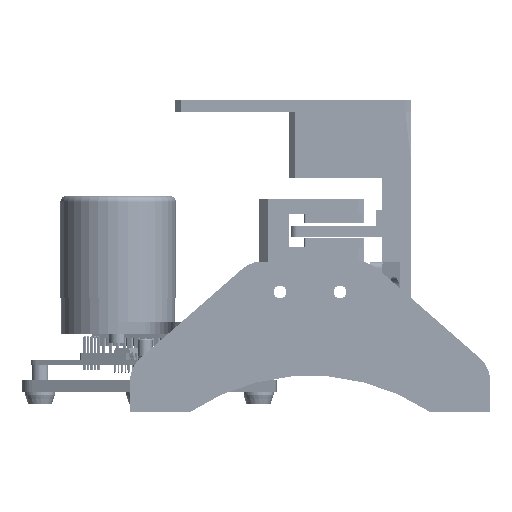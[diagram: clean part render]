
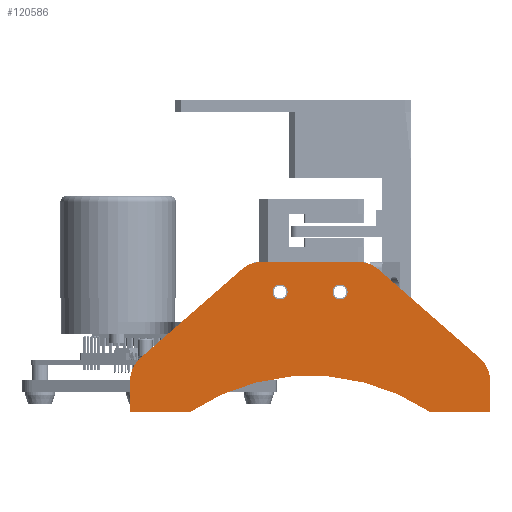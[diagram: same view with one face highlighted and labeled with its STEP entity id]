
A CAD part, left-side view. The second image highlights one B-rep face of the part: STEP entity #120586.
In plain terms, the highlighted planar face has unit normal (-1, 0, 0).
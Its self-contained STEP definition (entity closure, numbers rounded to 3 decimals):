
#9201=FACE_BOUND('',#21666,.T.);
#9202=FACE_BOUND('',#21667,.T.);
#10452=PLANE('',#128709);
#14718=FACE_OUTER_BOUND('',#21665,.T.);
#21665=EDGE_LOOP('',(#89911,#89912,#89913,#89914,#89915,#89916,#89917,#89918,
#89919,#89920,#89921,#89922));
#21666=EDGE_LOOP('',(#89923));
#21667=EDGE_LOOP('',(#89924));
#29846=LINE('',#179313,#41141);
#29849=LINE('',#179319,#41144);
#29850=LINE('',#179321,#41145);
#29851=LINE('',#179325,#41146);
#29852=LINE('',#179327,#41147);
#29853=LINE('',#179331,#41148);
#29854=LINE('',#179335,#41149);
#41141=VECTOR('',#143547,10.);
#41144=VECTOR('',#143552,10.);
#41145=VECTOR('',#143553,10.);
#41146=VECTOR('',#143556,10.);
#41147=VECTOR('',#143557,10.);
#41148=VECTOR('',#143560,10.);
#41149=VECTOR('',#143563,10.);
#51320=CIRCLE('',#128707,10.);
#51321=CIRCLE('',#128710,72.111);
#51322=CIRCLE('',#128711,10.);
#51323=CIRCLE('',#128712,10.);
#51324=CIRCLE('',#128713,10.);
#51325=CIRCLE('',#128714,2.5);
#51326=CIRCLE('',#128715,2.5);
#57221=VERTEX_POINT('',#179306);
#57222=VERTEX_POINT('',#179308);
#57223=VERTEX_POINT('',#179312);
#57225=VERTEX_POINT('',#179318);
#57226=VERTEX_POINT('',#179320);
#57227=VERTEX_POINT('',#179322);
#57228=VERTEX_POINT('',#179324);
#57229=VERTEX_POINT('',#179326);
#57230=VERTEX_POINT('',#179328);
#57231=VERTEX_POINT('',#179330);
#57232=VERTEX_POINT('',#179332);
#57233=VERTEX_POINT('',#179334);
#57234=VERTEX_POINT('',#179337);
#57235=VERTEX_POINT('',#179339);
#69564=EDGE_CURVE('',#57221,#57222,#51320,.T.);
#69566=EDGE_CURVE('',#57223,#57222,#29846,.T.);
#69569=EDGE_CURVE('',#57225,#57221,#29849,.T.);
#69570=EDGE_CURVE('',#57226,#57225,#29850,.T.);
#69571=EDGE_CURVE('',#57226,#57227,#51321,.T.);
#69572=EDGE_CURVE('',#57228,#57227,#29851,.T.);
#69573=EDGE_CURVE('',#57229,#57228,#29852,.T.);
#69574=EDGE_CURVE('',#57230,#57229,#51322,.T.);
#69575=EDGE_CURVE('',#57231,#57230,#29853,.T.);
#69576=EDGE_CURVE('',#57232,#57231,#51323,.T.);
#69577=EDGE_CURVE('',#57233,#57232,#29854,.T.);
#69578=EDGE_CURVE('',#57223,#57233,#51324,.T.);
#69579=EDGE_CURVE('',#57234,#57234,#51325,.T.);
#69580=EDGE_CURVE('',#57235,#57235,#51326,.T.);
#89911=ORIENTED_EDGE('',*,*,#69564,.F.);
#89912=ORIENTED_EDGE('',*,*,#69569,.F.);
#89913=ORIENTED_EDGE('',*,*,#69570,.F.);
#89914=ORIENTED_EDGE('',*,*,#69571,.T.);
#89915=ORIENTED_EDGE('',*,*,#69572,.F.);
#89916=ORIENTED_EDGE('',*,*,#69573,.F.);
#89917=ORIENTED_EDGE('',*,*,#69574,.F.);
#89918=ORIENTED_EDGE('',*,*,#69575,.F.);
#89919=ORIENTED_EDGE('',*,*,#69576,.F.);
#89920=ORIENTED_EDGE('',*,*,#69577,.F.);
#89921=ORIENTED_EDGE('',*,*,#69578,.F.);
#89922=ORIENTED_EDGE('',*,*,#69566,.T.);
#89923=ORIENTED_EDGE('',*,*,#69579,.F.);
#89924=ORIENTED_EDGE('',*,*,#69580,.F.);
#120586=ADVANCED_FACE('',(#14718,#9201,#9202),#10452,.F.);
#128707=AXIS2_PLACEMENT_3D('',#179309,#143542,#143543);
#128709=AXIS2_PLACEMENT_3D('',#179317,#143550,#143551);
#128710=AXIS2_PLACEMENT_3D('',#179323,#143554,#143555);
#128711=AXIS2_PLACEMENT_3D('',#179329,#143558,#143559);
#128712=AXIS2_PLACEMENT_3D('',#179333,#143561,#143562);
#128713=AXIS2_PLACEMENT_3D('',#179336,#143564,#143565);
#128714=AXIS2_PLACEMENT_3D('',#179338,#143566,#143567);
#128715=AXIS2_PLACEMENT_3D('',#179340,#143568,#143569);
#143542=DIRECTION('center_axis',(1.,0.,0.));
#143543=DIRECTION('ref_axis',(0.,0.911,0.413));
#143547=DIRECTION('',(0.,0.753,-0.659));
#143550=DIRECTION('center_axis',(1.,0.,0.));
#143551=DIRECTION('ref_axis',(0.,1.,0.));
#143552=DIRECTION('',(0.,0.,1.));
#143553=DIRECTION('',(0.,1.,0.));
#143554=DIRECTION('center_axis',(1.,0.,0.));
#143555=DIRECTION('ref_axis',(0.,0.555,0.832));
#143556=DIRECTION('',(0.,1.,0.));
#143557=DIRECTION('',(0.,0.,-1.));
#143558=DIRECTION('center_axis',(1.,0.,0.));
#143559=DIRECTION('ref_axis',(0.,-0.911,0.413));
#143560=DIRECTION('',(0.,-0.753,-0.659));
#143561=DIRECTION('center_axis',(1.,0.,0.));
#143562=DIRECTION('ref_axis',(0.,-0.352,0.936));
#143563=DIRECTION('',(0.,-1.,0.));
#143564=DIRECTION('center_axis',(1.,0.,0.));
#143565=DIRECTION('ref_axis',(0.,0.352,0.936));
#143566=DIRECTION('center_axis',(-1.,0.,0.));
#143567=DIRECTION('ref_axis',(0.,1.,0.));
#143568=DIRECTION('center_axis',(-1.,0.,0.));
#143569=DIRECTION('ref_axis',(0.,1.,0.));
#179306=CARTESIAN_POINT('',(0.,60.,-29.538));
#179308=CARTESIAN_POINT('',(0.,56.585,-22.012));
#179309=CARTESIAN_POINT('Origin',(0.,50.,-29.538));
#179312=CARTESIAN_POINT('',(0.,22.828,7.526));
#179313=CARTESIAN_POINT('',(0.,20.,10.));
#179317=CARTESIAN_POINT('Origin',(0.,0.,-15.));
#179318=CARTESIAN_POINT('',(0.,60.,-40.));
#179319=CARTESIAN_POINT('',(0.,60.,-40.));
#179320=CARTESIAN_POINT('',(0.,40.,-40.));
#179321=CARTESIAN_POINT('',(0.,-60.,-40.));
#179322=CARTESIAN_POINT('',(0.,-40.,-40.));
#179323=CARTESIAN_POINT('Origin',(0.,0.,-100.));
#179324=CARTESIAN_POINT('',(0.,-60.,-40.));
#179325=CARTESIAN_POINT('',(0.,-60.,-40.));
#179326=CARTESIAN_POINT('',(0.,-60.,-29.538));
#179327=CARTESIAN_POINT('',(0.,-60.,-10.));
#179328=CARTESIAN_POINT('',(0.,-56.585,-22.012));
#179329=CARTESIAN_POINT('Origin',(0.,-50.,-29.538));
#179330=CARTESIAN_POINT('',(0.,-22.828,7.526));
#179331=CARTESIAN_POINT('',(0.,-20.,10.));
#179332=CARTESIAN_POINT('',(0.,-16.243,10.));
#179333=CARTESIAN_POINT('Origin',(0.,-16.243,0.));
#179334=CARTESIAN_POINT('',(0.,16.243,10.));
#179335=CARTESIAN_POINT('',(0.,20.,10.));
#179336=CARTESIAN_POINT('Origin',(0.,16.243,0.));
#179337=CARTESIAN_POINT('',(0.,-12.5,0.));
#179338=CARTESIAN_POINT('Origin',(0.,-10.,0.));
#179339=CARTESIAN_POINT('',(0.,7.5,0.));
#179340=CARTESIAN_POINT('Origin',(0.,10.,0.));
